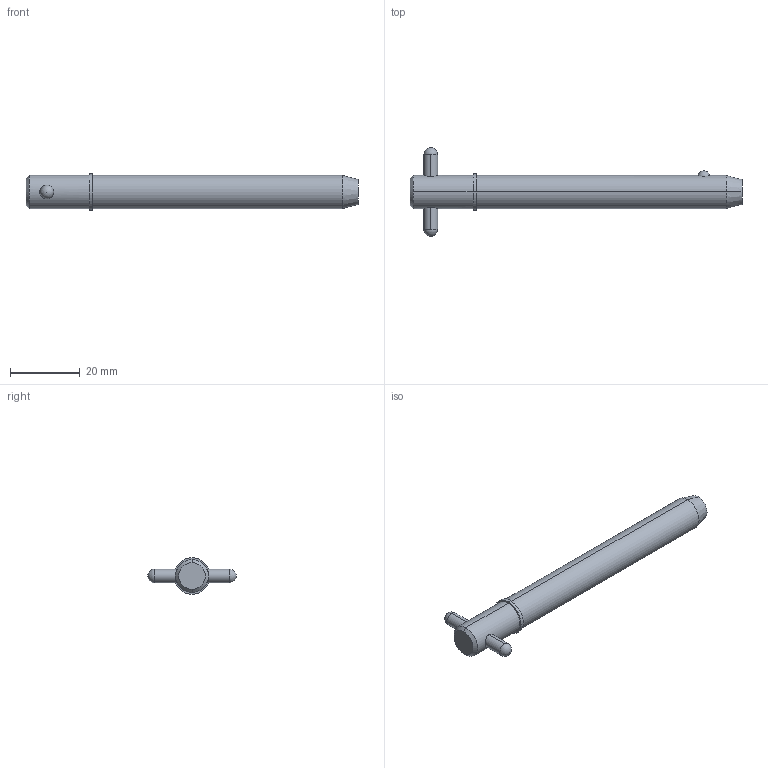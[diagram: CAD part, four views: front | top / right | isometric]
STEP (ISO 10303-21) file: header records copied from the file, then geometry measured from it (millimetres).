
FILE_DESCRIPTION (( 'STEP AP203' ), '1' );
FILE_NAME ('33018.W3725.step', '2024-11-19T17:11:22', ( '' ), ( '' ), 'SwSTEP 2.0', 'SolidWorks 2019', '' );
FILE_SCHEMA (( 'CONFIG_CONTROL_DESIGN' ));
Length unit declared in the file: millimetre
Products named in the file (3): 33018.W3725; Part2_33018.W3725; Part1_33018.W3725
Assembly tree (2 placements, depth 2):
  33018.W3725
    Part1_33018.W3725
    Part2_33018.W3725
Bounding box: 95.25 x 25.4 x 10.48 mm (x, y, z)
Volume: 6912.7 mm3; surface area: 3376.1 mm2
Topology: 2 solids, 2 shells, 22 faces, 47 edges, 30 vertices
Faces by surface type: cylinder 10, sphere 4, cone 4, plane 4
Entity records: 1023 total; most frequent: CARTESIAN_POINT 266, DIRECTION 110, ORIENTED_EDGE 82, AXIS2_PLACEMENT_3D 48, EDGE_CURVE 41, EDGE_LOOP 27, VERTEX_POINT 26, PERSON_AND_ORGANIZATION 26
